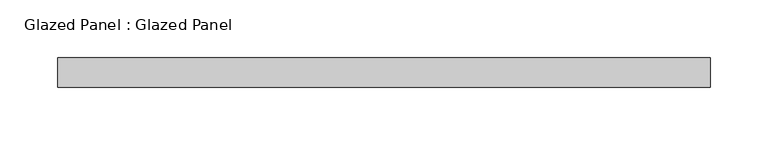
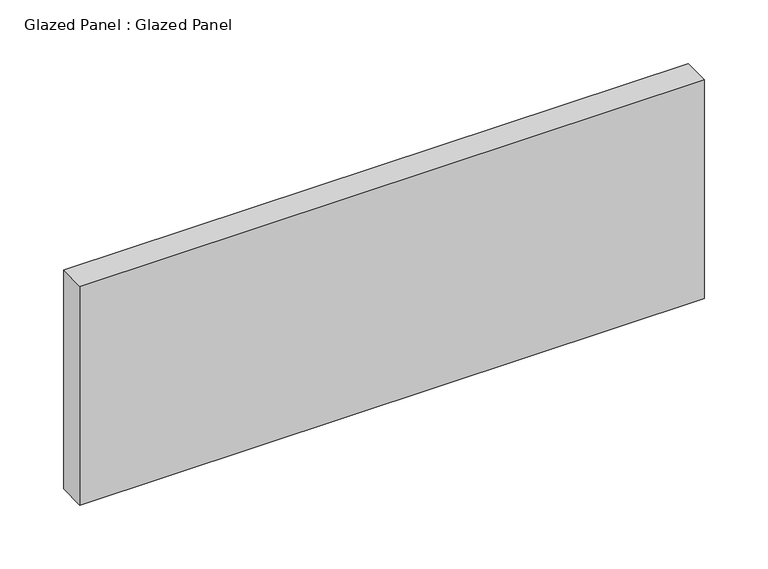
"""IFC4 building model written with IfcOpenShell, lengths in millimetres: plate geometry, Glazed Panel : Glazed Panel."""

from ifc_helpers import new_model, si_unit, origin, origin_with_axes, place, context, project, spatial, polyline, outline, extrude, source, transform, mapped, element, save


def glazed_panel_glazed_panel_d73316d2(model_context):
    return source(origin(), model_context, "Body", "SweptSolid", [
        extrude(outline(polyline([(282.575, 38.1), (-282.575, 38.1), (-282.575, 63.5), (282.575, 63.5), (282.575, 38.1)])), origin_with_axes(), (0.0, 0.0, 1.0), 209.55),
    ])


if __name__ == "__main__":
    model = new_model("IFC4")
    model_context = context("Model", 3, world=origin())
    ifc_project = project(units=[si_unit("LENGTHUNIT", "METRE", prefix="MILLI")], contexts=[model_context])
    site = spatial("IfcSite", under=ifc_project)
    building = spatial("IfcBuilding", under=site)
    placement = place(None, origin())
    glazed_panel_glazed_panel_shape = glazed_panel_glazed_panel_d73316d2(model_context)
    element("IfcPlate", 1, ObjectType="Glazed Panel : Glazed Panel", at=placement, inside=building, context=model_context, shape_type="MappedRepresentation", body=[
        mapped(glazed_panel_glazed_panel_shape, transform((0.0, 0.0, 0.0), x_axis=(1.0, 0.0, 0.0), y_axis=(0.0, 1.0, 0.0), z_axis=(0.0, 0.0, 1.0))),
    ])
    save(model, "model.ifc")
